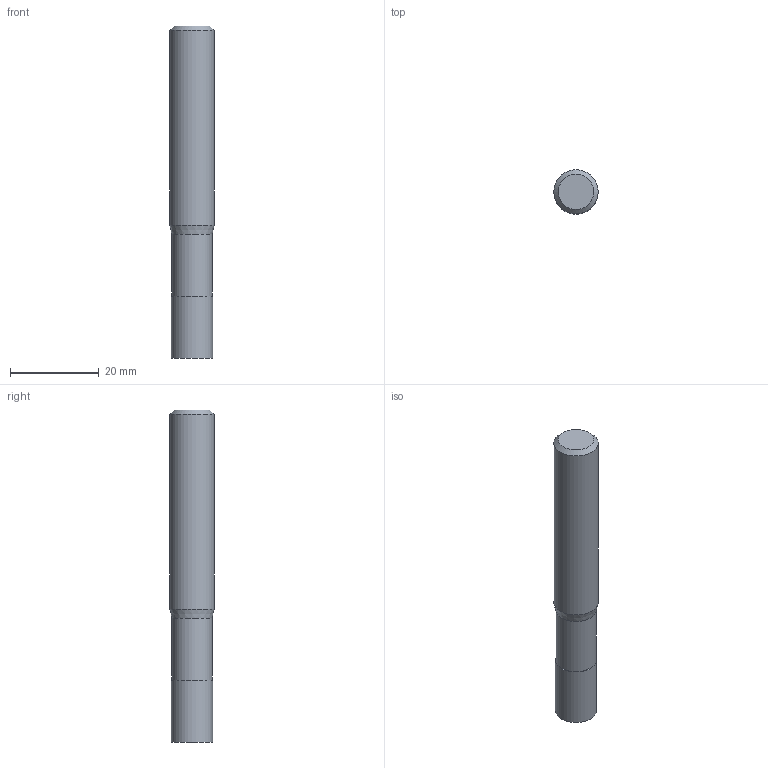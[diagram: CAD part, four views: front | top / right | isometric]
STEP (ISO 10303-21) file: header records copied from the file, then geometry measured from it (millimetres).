
FILE_DESCRIPTION((''),'2;1');
FILE_NAME('C:\Users\nsx150\AppData\Local\Temp\Mastercam 2021\EUJSUNXURU\TEMP.step','2021-04-22T10:29:44',(''),(''),'STEP Write','Mastercam 2021 ... CNC Software, Inc.','');
FILE_SCHEMA(('AUTOMOTIVE_DESIGN'));
Length unit declared in the file: millimetre
Products named in the file (1): None
Bounding box: 10 x 10 x 75 mm (x, y, z)
Volume: 5525.1 mm3; surface area: 2544.3 mm2
Topology: 2 solids, 2 shells, 9 faces, 12 edges, 7 vertices
Faces by surface type: plane 4, cylinder 3, cone 2
Full cylindrical faces by diameter (mm): 9.1 x1, 9.3 x1, 10 x1
Entity records: 211 total; most frequent: DIRECTION 36, CARTESIAN_POINT 25, AXIS2_PLACEMENT_3D 18, ORIENTED_EDGE 14, EDGE_LOOP 14, STYLED_ITEM 12, ADVANCED_FACE 9, FACE_BOUND 8
